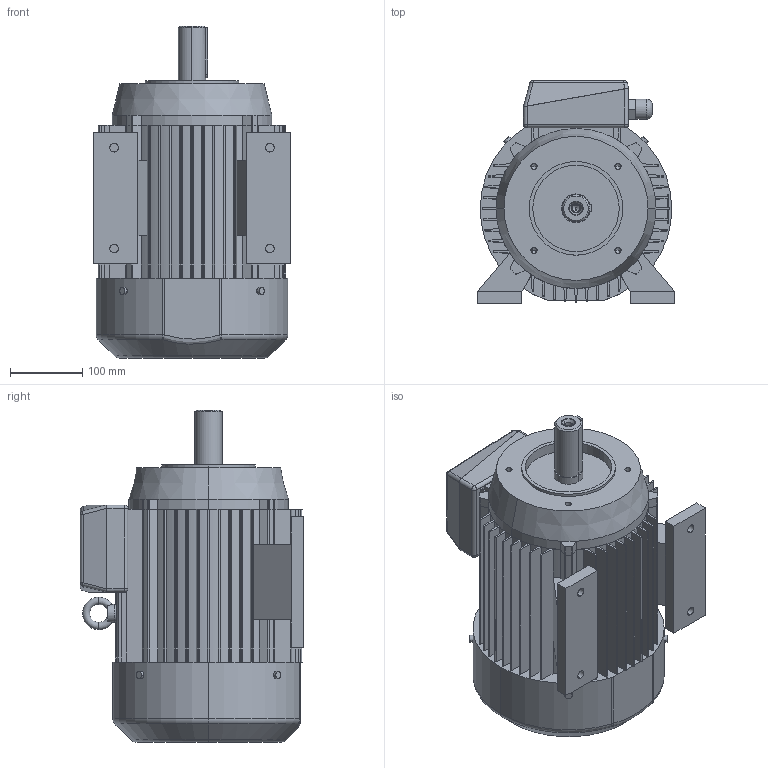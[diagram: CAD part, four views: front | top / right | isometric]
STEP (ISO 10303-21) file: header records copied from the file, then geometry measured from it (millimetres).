
FILE_DESCRIPTION (( 'STEP AP203' ), '1' );
FILE_NAME ('2SIEL132S2A,6-B34-C2.STEP', '2013-01-07T13:23:36', ( 'INDUKTA' ), ( 'CANTONI MOTOR' ), 'SwSTEP 2.0', 'SolidWorks 2003064', '' );
FILE_SCHEMA (( 'CONFIG_CONTROL_DESIGN' ));
Length unit declared in the file: millimetre
Products named in the file (1): 2SIEL132S2A,6-B34-C2
Bounding box: 274 x 310 x 461 mm (x, y, z)
Volume: 18721896.4 mm3; surface area: 1008124.8 mm2
Topology: 14 solids, 14 shells, 427 faces, 1120 edges, 703 vertices
Faces by surface type: cylinder 194, plane 187, cone 22, torus 13, sphere 10, bspline 1
Entity records: 13858 total; most frequent: CARTESIAN_POINT 3097, DIRECTION 2338, ORIENTED_EDGE 2200, EDGE_CURVE 1100, AXIS2_PLACEMENT_3D 848, VERTEX_POINT 703, LINE 642, VECTOR 642
